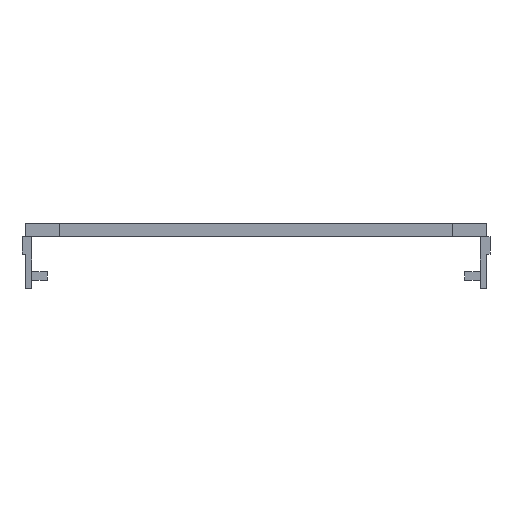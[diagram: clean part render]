
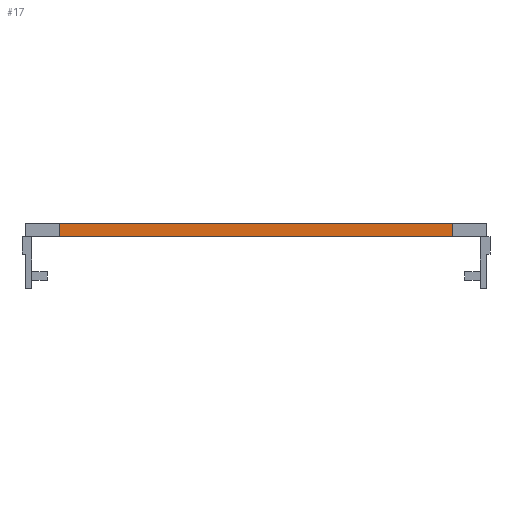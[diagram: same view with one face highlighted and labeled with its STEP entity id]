
A CAD part, left-side view. The second image highlights one B-rep face of the part: STEP entity #17.
In plain terms, the highlighted planar face has unit normal (-1, 0, 0).
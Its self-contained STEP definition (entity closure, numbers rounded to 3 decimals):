
#17 = ADVANCED_FACE('',(#18),#32,.T.);
#18 = FACE_BOUND('',#19,.T.);
#19 = EDGE_LOOP('',(#20,#55,#81,#109));
#20 = ORIENTED_EDGE('',*,*,#21,.F.);
#21 = EDGE_CURVE('',#22,#24,#26,.T.);
#22 = VERTEX_POINT('',#23);
#23 = CARTESIAN_POINT('',(-77.8,-45.,0.));
#24 = VERTEX_POINT('',#25);
#25 = CARTESIAN_POINT('',(-77.8,45.,0.));
#26 = SURFACE_CURVE('',#27,(#31,#43),.PCURVE_S1.);
#27 = LINE('',#28,#29);
#28 = CARTESIAN_POINT('',(-77.8,0.,0.));
#29 = VECTOR('',#30,1.);
#30 = DIRECTION('',(0.,1.,0.));
#31 = PCURVE('',#32,#37);
#32 = PLANE('',#33);
#33 = AXIS2_PLACEMENT_3D('',#34,#35,#36);
#34 = CARTESIAN_POINT('',(-77.8,-46.8,0.));
#35 = DIRECTION('',(-1.,0.,0.));
#36 = DIRECTION('',(0.,1.,0.));
#37 = DEFINITIONAL_REPRESENTATION('',(#38),#42);
#38 = LINE('',#39,#40);
#39 = CARTESIAN_POINT('',(46.8,0.));
#40 = VECTOR('',#41,1.);
#41 = DIRECTION('',(1.,0.));
#42 = ( GEOMETRIC_REPRESENTATION_CONTEXT(2) 
PARAMETRIC_REPRESENTATION_CONTEXT() REPRESENTATION_CONTEXT('2D SPACE',''
  ) );
#43 = PCURVE('',#44,#49);
#44 = PLANE('',#45);
#45 = AXIS2_PLACEMENT_3D('',#46,#47,#48);
#46 = CARTESIAN_POINT('',(0.,0.,0.));
#47 = DIRECTION('',(0.,0.,1.));
#48 = DIRECTION('',(1.,0.,-0.));
#49 = DEFINITIONAL_REPRESENTATION('',(#50),#54);
#50 = LINE('',#51,#52);
#51 = CARTESIAN_POINT('',(-77.8,0.));
#52 = VECTOR('',#53,1.);
#53 = DIRECTION('',(0.,1.));
#54 = ( GEOMETRIC_REPRESENTATION_CONTEXT(2) 
PARAMETRIC_REPRESENTATION_CONTEXT() REPRESENTATION_CONTEXT('2D SPACE',''
  ) );
#55 = ORIENTED_EDGE('',*,*,#56,.F.);
#56 = EDGE_CURVE('',#57,#22,#59,.T.);
#57 = VERTEX_POINT('',#58);
#58 = CARTESIAN_POINT('',(-77.8,-45.,3.));
#59 = SURFACE_CURVE('',#60,(#64,#70),.PCURVE_S1.);
#60 = LINE('',#61,#62);
#61 = CARTESIAN_POINT('',(-77.8,-45.,-0.1));
#62 = VECTOR('',#63,1.);
#63 = DIRECTION('',(0.,0.,-1.));
#64 = PCURVE('',#32,#65);
#65 = DEFINITIONAL_REPRESENTATION('',(#66),#69);
#66 = B_SPLINE_CURVE_WITH_KNOTS('',1,(#67,#68),.UNSPECIFIED.,.F.,.F.,(2,
    2),(-3.1,-0.1),.PIECEWISE_BEZIER_KNOTS.);
#67 = CARTESIAN_POINT('',(1.8,-3.));
#68 = CARTESIAN_POINT('',(1.8,0.));
#69 = ( GEOMETRIC_REPRESENTATION_CONTEXT(2) 
PARAMETRIC_REPRESENTATION_CONTEXT() REPRESENTATION_CONTEXT('2D SPACE',''
  ) );
#70 = PCURVE('',#71,#76);
#71 = PLANE('',#72);
#72 = AXIS2_PLACEMENT_3D('',#73,#74,#75);
#73 = CARTESIAN_POINT('',(-78.8,-45.,-0.2));
#74 = DIRECTION('',(-0.,1.,0.));
#75 = DIRECTION('',(0.,0.,1.));
#76 = DEFINITIONAL_REPRESENTATION('',(#77),#80);
#77 = B_SPLINE_CURVE_WITH_KNOTS('',1,(#78,#79),.UNSPECIFIED.,.F.,.F.,(2,
    2),(-3.1,-0.1),.PIECEWISE_BEZIER_KNOTS.);
#78 = CARTESIAN_POINT('',(3.2,1.));
#79 = CARTESIAN_POINT('',(0.2,1.));
#80 = ( GEOMETRIC_REPRESENTATION_CONTEXT(2) 
PARAMETRIC_REPRESENTATION_CONTEXT() REPRESENTATION_CONTEXT('2D SPACE',''
  ) );
#81 = ORIENTED_EDGE('',*,*,#82,.T.);
#82 = EDGE_CURVE('',#57,#83,#85,.T.);
#83 = VERTEX_POINT('',#84);
#84 = CARTESIAN_POINT('',(-77.8,45.,3.));
#85 = SURFACE_CURVE('',#86,(#90,#97),.PCURVE_S1.);
#86 = LINE('',#87,#88);
#87 = CARTESIAN_POINT('',(-77.8,0.,3.));
#88 = VECTOR('',#89,1.);
#89 = DIRECTION('',(0.,1.,0.));
#90 = PCURVE('',#32,#91);
#91 = DEFINITIONAL_REPRESENTATION('',(#92),#96);
#92 = LINE('',#93,#94);
#93 = CARTESIAN_POINT('',(46.8,-3.));
#94 = VECTOR('',#95,1.);
#95 = DIRECTION('',(1.,0.));
#96 = ( GEOMETRIC_REPRESENTATION_CONTEXT(2) 
PARAMETRIC_REPRESENTATION_CONTEXT() REPRESENTATION_CONTEXT('2D SPACE',''
  ) );
#97 = PCURVE('',#98,#103);
#98 = PLANE('',#99);
#99 = AXIS2_PLACEMENT_3D('',#100,#101,#102);
#100 = CARTESIAN_POINT('',(0.,0.,3.));
#101 = DIRECTION('',(0.,0.,1.));
#102 = DIRECTION('',(1.,0.,-0.));
#103 = DEFINITIONAL_REPRESENTATION('',(#104),#108);
#104 = LINE('',#105,#106);
#105 = CARTESIAN_POINT('',(-77.8,0.));
#106 = VECTOR('',#107,1.);
#107 = DIRECTION('',(0.,1.));
#108 = ( GEOMETRIC_REPRESENTATION_CONTEXT(2) 
PARAMETRIC_REPRESENTATION_CONTEXT() REPRESENTATION_CONTEXT('2D SPACE',''
  ) );
#109 = ORIENTED_EDGE('',*,*,#110,.T.);
#110 = EDGE_CURVE('',#83,#24,#111,.T.);
#111 = SURFACE_CURVE('',#112,(#116,#122),.PCURVE_S1.);
#112 = LINE('',#113,#114);
#113 = CARTESIAN_POINT('',(-77.8,45.,-0.1));
#114 = VECTOR('',#115,1.);
#115 = DIRECTION('',(0.,0.,-1.));
#116 = PCURVE('',#32,#117);
#117 = DEFINITIONAL_REPRESENTATION('',(#118),#121);
#118 = B_SPLINE_CURVE_WITH_KNOTS('',1,(#119,#120),.UNSPECIFIED.,.F.,.F.,
  (2,2),(-3.1,-0.1),.PIECEWISE_BEZIER_KNOTS.);
#119 = CARTESIAN_POINT('',(91.8,-3.));
#120 = CARTESIAN_POINT('',(91.8,0.));
#121 = ( GEOMETRIC_REPRESENTATION_CONTEXT(2) 
PARAMETRIC_REPRESENTATION_CONTEXT() REPRESENTATION_CONTEXT('2D SPACE',''
  ) );
#122 = PCURVE('',#123,#128);
#123 = PLANE('',#124);
#124 = AXIS2_PLACEMENT_3D('',#125,#126,#127);
#125 = CARTESIAN_POINT('',(-78.8,45.,-0.2));
#126 = DIRECTION('',(-0.,1.,0.));
#127 = DIRECTION('',(0.,0.,1.));
#128 = DEFINITIONAL_REPRESENTATION('',(#129),#132);
#129 = B_SPLINE_CURVE_WITH_KNOTS('',1,(#130,#131),.UNSPECIFIED.,.F.,.F.,
  (2,2),(-3.1,-0.1),.PIECEWISE_BEZIER_KNOTS.);
#130 = CARTESIAN_POINT('',(3.2,1.));
#131 = CARTESIAN_POINT('',(0.2,1.));
#132 = ( GEOMETRIC_REPRESENTATION_CONTEXT(2) 
PARAMETRIC_REPRESENTATION_CONTEXT() REPRESENTATION_CONTEXT('2D SPACE',''
  ) );
